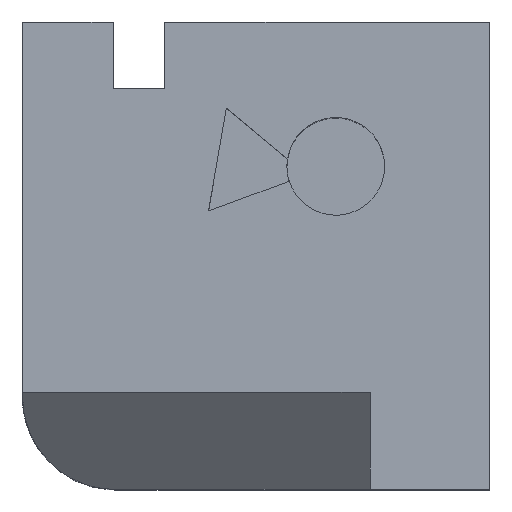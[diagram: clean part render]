
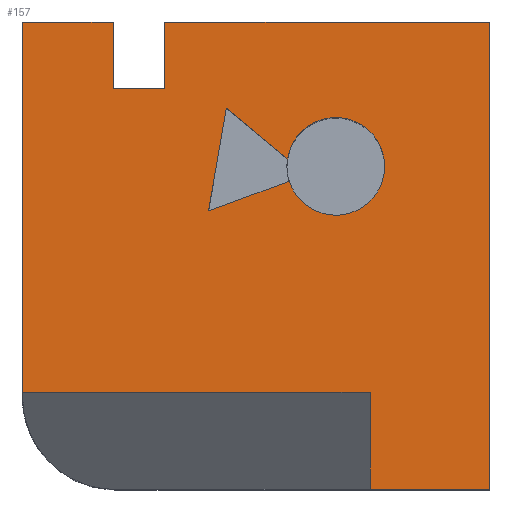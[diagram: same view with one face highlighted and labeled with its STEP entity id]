
A CAD part, top view. The second image highlights one B-rep face of the part: STEP entity #157.
In plain terms, the highlighted planar face has unit normal (0, 0, 1).
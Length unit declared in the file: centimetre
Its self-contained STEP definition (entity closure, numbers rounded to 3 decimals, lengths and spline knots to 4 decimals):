
#1 = VERTEX_POINT ( 'NONE', #989 ) ;
#2 = CARTESIAN_POINT ( 'NONE',  ( 0., 1000., 1000. ) ) ;
#19 = CIRCLE ( 'NONE', #929, 104.5935 ) ;
#26 = LINE ( 'NONE', #339, #770 ) ;
#27 = VERTEX_POINT ( 'NONE', #892 ) ;
#30 = DIRECTION ( 'NONE',  ( -0.768, 0.64, 0. ) ) ;
#33 = VERTEX_POINT ( 'NONE', #776 ) ;
#43 = AXIS2_PLACEMENT_3D ( 'NONE', #741, #264, #806 ) ;
#74 = DIRECTION ( 'NONE',  ( 0., 1., 0. ) ) ;
#102 = DIRECTION ( 'NONE',  ( 0., 0., 1. ) ) ;
#110 = DIRECTION ( 'NONE',  ( -1., 0., 0. ) ) ;
#112 = DIRECTION ( 'NONE',  ( 0., 0., 1. ) ) ;
#126 = CARTESIAN_POINT ( 'NONE',  ( 304.6477, 857.383, 1000. ) ) ;
#140 = VECTOR ( 'NONE', #74, 100. ) ;
#144 = CARTESIAN_POINT ( 'NONE',  ( 1000., 1000., 1000. ) ) ;
#157 = ADVANCED_FACE ( 'NONE', ( #702, #418 ), #895, .T. ) ;
#178 = CARTESIAN_POINT ( 'NONE',  ( 670.8133, 691.0513, 1000. ) ) ;
#179 = CARTESIAN_POINT ( 'NONE',  ( 0., 0., 1000. ) ) ;
#195 = EDGE_CURVE ( 'NONE', #680, #33, #423, .T. ) ;
#226 = VERTEX_POINT ( 'NONE', #259 ) ;
#236 = EDGE_CURVE ( 'NONE', #439, #370, #886, .T. ) ;
#248 = EDGE_CURVE ( 'NONE', #298, #27, #26, .T. ) ;
#258 = EDGE_CURVE ( 'NONE', #433, #534, #967, .T. ) ;
#259 = CARTESIAN_POINT ( 'NONE',  ( 398.3763, 595.5684, 1000. ) ) ;
#264 = DIRECTION ( 'NONE',  ( 0., 0., 1. ) ) ;
#268 = CARTESIAN_POINT ( 'NONE',  ( 0., 1000., 1000. ) ) ;
#272 = ORIENTED_EDGE ( 'NONE', *, *, #236, .T. ) ;
#285 = CARTESIAN_POINT ( 'NONE',  ( 436.4424, 815.7134, 1000. ) ) ;
#292 = LINE ( 'NONE', #746, #342 ) ;
#298 = VERTEX_POINT ( 'NONE', #414 ) ;
#308 = VERTEX_POINT ( 'NONE', #591 ) ;
#311 = VECTOR ( 'NONE', #549, 100. ) ;
#319 = CARTESIAN_POINT ( 'NONE',  ( 436.4424, 815.7134, 1000. ) ) ;
#322 = LINE ( 'NONE', #144, #140 ) ;
#333 = DIRECTION ( 'NONE',  ( 1., 0., 0. ) ) ;
#335 = DIRECTION ( 'NONE',  ( 0., 1., 0. ) ) ;
#338 = LINE ( 'NONE', #268, #390 ) ;
#339 = CARTESIAN_POINT ( 'NONE',  ( 0., 1000., 1000. ) ) ;
#342 = VECTOR ( 'NONE', #1000, 100. ) ;
#344 = DIRECTION ( 'NONE',  ( -1., 0., 0. ) ) ;
#370 = VERTEX_POINT ( 'NONE', #906 ) ;
#378 = EDGE_LOOP ( 'NONE', ( #845, #935, #659, #685, #383 ) ) ;
#383 = ORIENTED_EDGE ( 'NONE', *, *, #748, .F. ) ;
#384 = CARTESIAN_POINT ( 'NONE',  ( 744.1284, 0., 1000. ) ) ;
#390 = VECTOR ( 'NONE', #110, 100. ) ;
#395 = EDGE_CURVE ( 'NONE', #27, #430, #292, .T. ) ;
#410 = DIRECTION ( 'NONE',  ( 1., 0., 0. ) ) ;
#414 = CARTESIAN_POINT ( 'NONE',  ( 1000., 1000., 1000. ) ) ;
#418 = FACE_OUTER_BOUND ( 'NONE', #726, .T. ) ;
#419 = CARTESIAN_POINT ( 'NONE',  ( 398.3763, 595.5684, 1000. ) ) ;
#423 = LINE ( 'NONE', #568, #999 ) ;
#428 = CARTESIAN_POINT ( 'NONE',  ( 744.1284, 0., 1000. ) ) ;
#430 = VERTEX_POINT ( 'NONE', #126 ) ;
#433 = VERTEX_POINT ( 'NONE', #933 ) ;
#434 = DIRECTION ( 'NONE',  ( -1., 0., 0. ) ) ;
#435 = AXIS2_PLACEMENT_3D ( 'NONE', #178, #102, #333 ) ;
#439 = VERTEX_POINT ( 'NONE', #384 ) ;
#445 = ORIENTED_EDGE ( 'NONE', *, *, #491, .T. ) ;
#456 = VERTEX_POINT ( 'NONE', #937 ) ;
#470 = EDGE_CURVE ( 'NONE', #456, #922, #1014, .T. ) ;
#486 = LINE ( 'NONE', #428, #742 ) ;
#491 = EDGE_CURVE ( 'NONE', #370, #298, #322, .T. ) ;
#519 = ORIENTED_EDGE ( 'NONE', *, *, #698, .T. ) ;
#521 = LINE ( 'NONE', #285, #651 ) ;
#524 = VERTEX_POINT ( 'NONE', #859 ) ;
#534 = VERTEX_POINT ( 'NONE', #319 ) ;
#543 = VECTOR ( 'NONE', #650, 100. ) ;
#549 = DIRECTION ( 'NONE',  ( 0., -1., 0. ) ) ;
#568 = CARTESIAN_POINT ( 'NONE',  ( 194.3079, 857.383, 1000. ) ) ;
#586 = VECTOR ( 'NONE', #30, 100. ) ;
#591 = CARTESIAN_POINT ( 'NONE',  ( 571.2117, 659.1244, 1000. ) ) ;
#626 = EDGE_CURVE ( 'NONE', #308, #524, #979, .T. ) ;
#638 = VECTOR ( 'NONE', #729, 100. ) ;
#647 = ORIENTED_EDGE ( 'NONE', *, *, #195, .T. ) ;
#650 = DIRECTION ( 'NONE',  ( 0.939, 0.345, 0. ) ) ;
#651 = VECTOR ( 'NONE', #826, 100. ) ;
#659 = ORIENTED_EDGE ( 'NONE', *, *, #626, .F. ) ;
#676 = LINE ( 'NONE', #986, #897 ) ;
#680 = VERTEX_POINT ( 'NONE', #740 ) ;
#685 = ORIENTED_EDGE ( 'NONE', *, *, #957, .F. ) ;
#698 = EDGE_CURVE ( 'NONE', #33, #456, #338, .T. ) ;
#702 = FACE_BOUND ( 'NONE', #378, .T. ) ;
#724 = DIRECTION ( 'NONE',  ( 0., 1., 0. ) ) ;
#726 = EDGE_LOOP ( 'NONE', ( #647, #519, #889, #759, #778, #272, #445, #781, #965, #893 ) ) ;
#727 = EDGE_CURVE ( 'NONE', #430, #680, #676, .T. ) ;
#729 = DIRECTION ( 'NONE',  ( 1., 0., 0. ) ) ;
#738 = DIRECTION ( 'NONE',  ( -1., 0., 0. ) ) ;
#740 = CARTESIAN_POINT ( 'NONE',  ( 194.3079, 857.383, 1000. ) ) ;
#741 = CARTESIAN_POINT ( 'NONE',  ( 0., 0., 1000. ) ) ;
#742 = VECTOR ( 'NONE', #335, 100. ) ;
#746 = CARTESIAN_POINT ( 'NONE',  ( 304.6477, 857.383, 1000. ) ) ;
#748 = EDGE_CURVE ( 'NONE', #534, #226, #521, .T. ) ;
#759 = ORIENTED_EDGE ( 'NONE', *, *, #878, .F. ) ;
#770 = VECTOR ( 'NONE', #344, 100. ) ;
#776 = CARTESIAN_POINT ( 'NONE',  ( 194.3079, 1000., 1000. ) ) ;
#778 = ORIENTED_EDGE ( 'NONE', *, *, #987, .F. ) ;
#781 = ORIENTED_EDGE ( 'NONE', *, *, #248, .T. ) ;
#806 = DIRECTION ( 'NONE',  ( 1., 0., 0. ) ) ;
#819 = LINE ( 'NONE', #970, #984 ) ;
#826 = DIRECTION ( 'NONE',  ( -0.17, -0.985, 0. ) ) ;
#845 = ORIENTED_EDGE ( 'NONE', *, *, #258, .F. ) ;
#859 = CARTESIAN_POINT ( 'NONE',  ( 775.4068, 691.0513, 1000. ) ) ;
#875 = CARTESIAN_POINT ( 'NONE',  ( 0., 207.303, 1000. ) ) ;
#878 = EDGE_CURVE ( 'NONE', #1, #922, #819, .T. ) ;
#881 = LINE ( 'NONE', #419, #543 ) ;
#886 = LINE ( 'NONE', #179, #638 ) ;
#887 = CARTESIAN_POINT ( 'NONE',  ( 670.8133, 691.0513, 1000. ) ) ;
#889 = ORIENTED_EDGE ( 'NONE', *, *, #470, .T. ) ;
#892 = CARTESIAN_POINT ( 'NONE',  ( 304.6477, 1000., 1000. ) ) ;
#893 = ORIENTED_EDGE ( 'NONE', *, *, #727, .T. ) ;
#895 = PLANE ( 'NONE',  #43 ) ;
#897 = VECTOR ( 'NONE', #434, 100. ) ;
#906 = CARTESIAN_POINT ( 'NONE',  ( 1000., 0., 1000. ) ) ;
#922 = VERTEX_POINT ( 'NONE', #875 ) ;
#929 = AXIS2_PLACEMENT_3D ( 'NONE', #887, #112, #410 ) ;
#933 = CARTESIAN_POINT ( 'NONE',  ( 567.3792, 706.5814, 1000. ) ) ;
#935 = ORIENTED_EDGE ( 'NONE', *, *, #947, .F. ) ;
#937 = CARTESIAN_POINT ( 'NONE',  ( 0., 1000., 1000. ) ) ;
#947 = EDGE_CURVE ( 'NONE', #524, #433, #19, .T. ) ;
#957 = EDGE_CURVE ( 'NONE', #226, #308, #881, .T. ) ;
#965 = ORIENTED_EDGE ( 'NONE', *, *, #395, .T. ) ;
#967 = LINE ( 'NONE', #977, #586 ) ;
#970 = CARTESIAN_POINT ( 'NONE',  ( 744.1284, 207.303, 1000. ) ) ;
#977 = CARTESIAN_POINT ( 'NONE',  ( 608.0605, 672.6746, 1000. ) ) ;
#979 = CIRCLE ( 'NONE', #435, 104.5935 ) ;
#984 = VECTOR ( 'NONE', #738, 100. ) ;
#986 = CARTESIAN_POINT ( 'NONE',  ( 194.3079, 857.383, 1000. ) ) ;
#987 = EDGE_CURVE ( 'NONE', #439, #1, #486, .T. ) ;
#989 = CARTESIAN_POINT ( 'NONE',  ( 744.1284, 207.303, 1000. ) ) ;
#999 = VECTOR ( 'NONE', #724, 100. ) ;
#1000 = DIRECTION ( 'NONE',  ( 0., -1., 0. ) ) ;
#1014 = LINE ( 'NONE', #2, #311 ) ;
